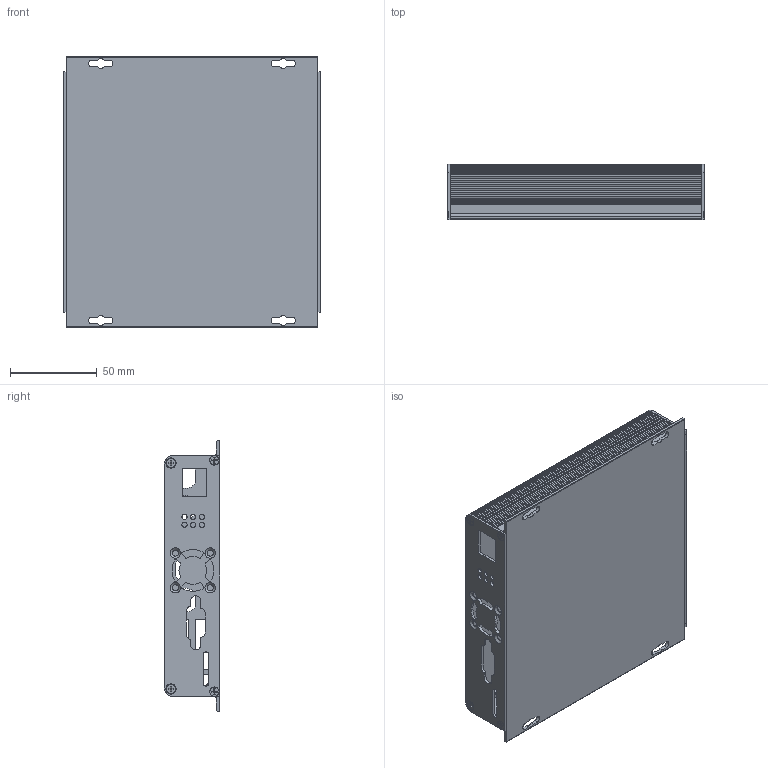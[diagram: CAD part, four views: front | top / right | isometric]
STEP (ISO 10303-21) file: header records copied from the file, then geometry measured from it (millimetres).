
FILE_DESCRIPTION(/* description */ (''),/* implementation_level */ '2;1');
FILE_NAME(/* name */ '251126 CameraBoxV3 chinhsua.stp',/* time_stamp */ '2025-11-27T10:02:44+07:00',/* author */ ('Admin'),/* organization */ (''),/* preprocessor_version */ 'ST-DEVELOPER v19.2',/* originating_system */ 'Autodesk Inventor 2024',/* authorisation */ '');
FILE_SCHEMA (('AUTOMOTIVE_DESIGN { 1 0 10303 214 3 1 1 }'));
Length unit declared in the file: millimetre
Products named in the file (5): 251126 CameraBoxV3; Vo; AS 1427 - M3 x 6; Part2; Part1
Assembly tree (11 placements, depth 2):
  251126 CameraBoxV3
    Vo
    AS 1427 - M3 x 6  x8
    Part2
    Part1
Bounding box: 148 x 32 x 155.5 mm (x, y, z)
Volume: 113897.3 mm3; surface area: 123124.7 mm2
Topology: 11 solids, 11 shells, 655 faces, 1867 edges, 1230 vertices
Faces by surface type: cylinder 278, plane 234, cone 108, torus 32, bspline 3
Full cylindrical faces by diameter (mm): 2.693 x8, 3 x14, 3.5 x12, 5.3 x8
Entity records: 16678 total; most frequent: CARTESIAN_POINT 3459, DIRECTION 2766, ORIENTED_EDGE 2654, EDGE_CURVE 1327, AXIS2_PLACEMENT_3D 1013, VERTEX_POINT 880, LINE 740, VECTOR 740
